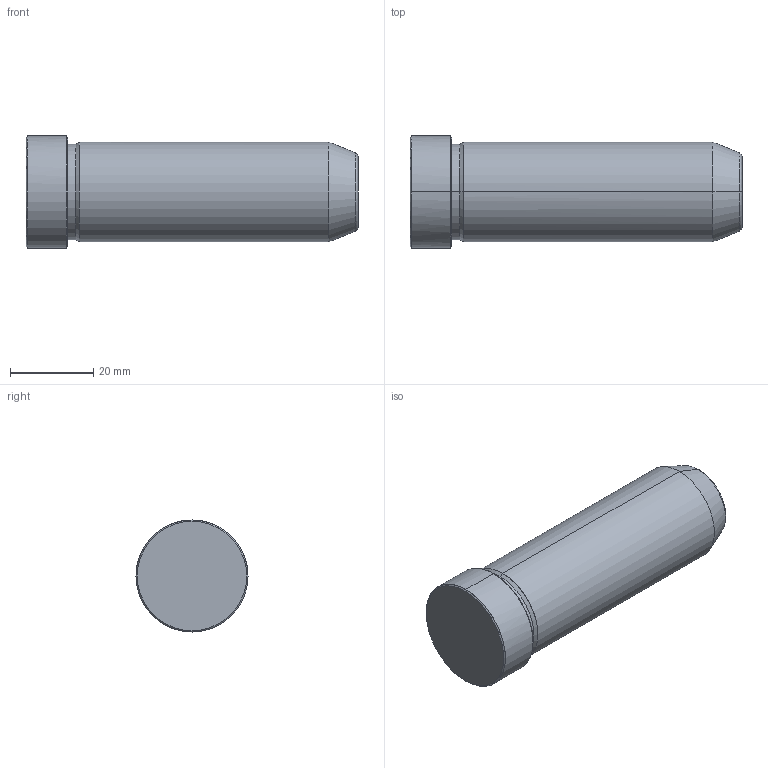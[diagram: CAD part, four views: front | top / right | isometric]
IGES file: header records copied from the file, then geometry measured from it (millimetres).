
Start section: START RECORD GO HERE.
Global section: file name: 549-24X80.igs; native system: DASSAULT SYSTEMES CATIA V5 R20 - www.3ds.com; preprocessor: CATIA Version 5 Release 20 ; author: Utente; organization: NB04-ASUS; date: 20211217.150700; units: millimetre
Bounding box: 80 x 27 x 27 mm (x, y, z)
Surface area: 7057 mm2 (no closed solid volume)
Topology: 0 solids, 0 shells, 19 faces, 112 edges, 112 vertices
Faces by surface type: revolution 16, plane 3
